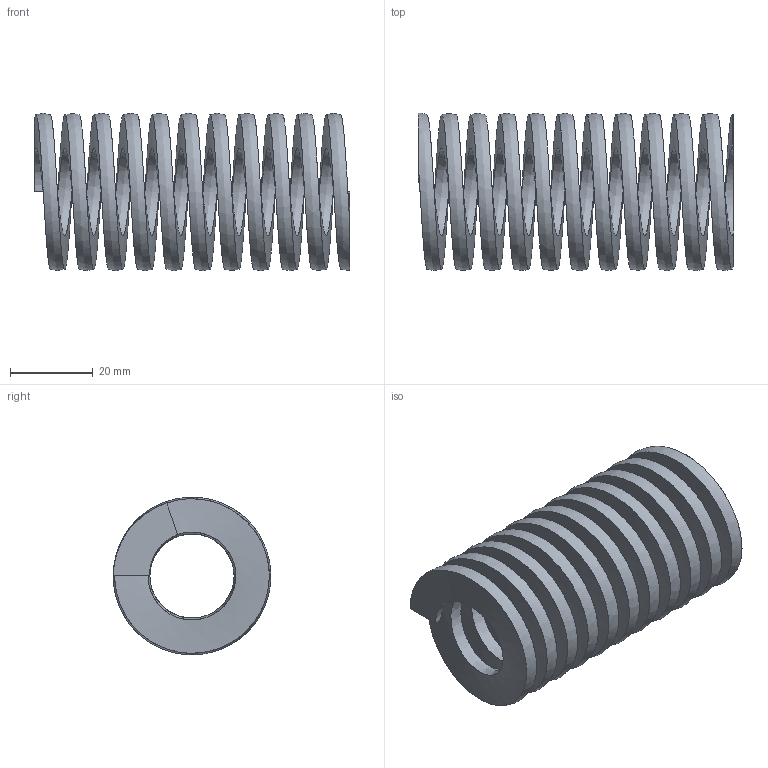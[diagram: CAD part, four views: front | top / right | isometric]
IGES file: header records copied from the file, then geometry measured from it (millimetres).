
Start section: SolidWorks IGES file using analytic representation for surfaces
Global section: file name: C:\Users\365admin\AppData\Local\Temp\InFlowXlateWorking\HS150L3.igs; native system: SolidWorks 2018; preprocessor: SolidWorks 2018; author: 365admin; date: 200824.072335; units: inch
Bounding box: 76.2 x 38.1 x 38.08 mm (x, y, z)
Surface area: 23420.9 mm2 (no closed solid volume)
Topology: 0 solids, 0 shells, 8 faces, 107 edges, 107 vertices
Faces by surface type: bspline 8
